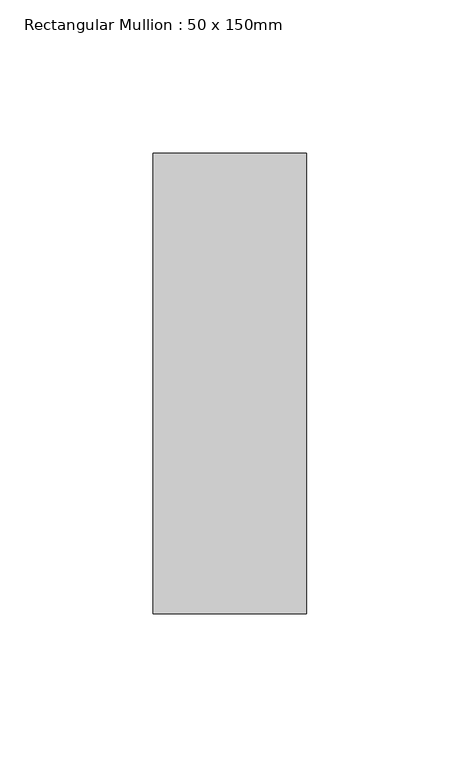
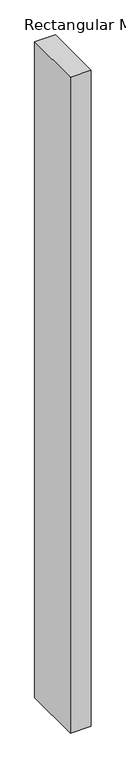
"""IFC4 building model written with IfcOpenShell, lengths in millimetres: member geometry, Rectangular Mullion : 50 x 150mm."""

import ifcopenshell
import ifcopenshell.guid

model = None  # the IFC model being written
_history = None  # IfcOwnerHistory: only IFC2X3 demands one
_inside = {}  # id of a spatial element -> (the spatial element, [elements in it])
_under = {}  # id of a project, library or spatial element -> (it, [spatial elements below it])
_declared = {}  # id of a project -> (the project, [libraries it declares])
_typed = {}  # id of a type object -> (the type object, [elements of that type])
_made_of = {}  # id of a material, layer set ... -> (it, [elements and type objects made of it])


def new_model(schema):
    """Start an empty IFC model of exactly this schema.

    Asked for "IFC4X3", IfcOpenShell would pick the latest addendum, in which some entities
    have other attributes; the version numbers below select the first issue.
    IFC2X3 requires an IfcOwnerHistory on every rooted entity: one is made here for all.
    """
    global model, _history
    if schema == "IFC4X3":
        model = ifcopenshell.file(schema_version=(4, 3, 0, 0))
    else:
        model = ifcopenshell.file(schema=schema)
    _inside.clear()
    _under.clear()
    _declared.clear()
    _typed.clear()
    _made_of.clear()
    _history = None
    if model.schema == "IFC2X3":
        org = make("IfcOrganization", Name="unknown")
        user = make(
            "IfcPersonAndOrganization",
            ThePerson=make("IfcPerson", FamilyName="unknown"),
            TheOrganization=org,
        )
        app = make(
            "IfcApplication",
            ApplicationDeveloper=org,
            Version="unknown",
            ApplicationFullName="unknown",
            ApplicationIdentifier="unknown",
        )
        _history = make(
            "IfcOwnerHistory",
            OwningUser=user,
            OwningApplication=app,
            ChangeAction="ADDED",
            CreationDate=0,
        )
    return model


def make(cls, **values):
    """One entity of the class cls with the attributes given. An attribute that is None is left unset."""
    return model.create_entity(
        cls, **{name: value for name, value in values.items() if value is not None}
    )


def rooted(cls, **values):
    """An entity with a GlobalId (a new one), such as an element, a storey or a relation."""
    return make(cls, GlobalId=ifcopenshell.guid.new(), OwnerHistory=_history, **values)


def si_unit(unit_type, name, prefix=None):
    """IfcSIUnit, for example si_unit("LENGTHUNIT", "METRE", prefix="MILLI")."""
    return make("IfcSIUnit", UnitType=unit_type, Prefix=prefix, Name=name)


def assignment(units):
    """IfcUnitAssignment: the units of a project."""
    return None if units is None else make("IfcUnitAssignment", Units=units)


def point(xyz):
    """IfcCartesianPoint."""
    return None if xyz is None else make("IfcCartesianPoint", Coordinates=xyz)


def direction(xyz):
    """IfcDirection."""
    return None if xyz is None else make("IfcDirection", DirectionRatios=xyz)


def frame(location, z_axis=None, x_axis=None):
    """IfcAxis2Placement3D, a coordinate frame: its origin and axes. An axis left out is left unset."""
    return make(
        "IfcAxis2Placement3D",
        Location=point(location),
        Axis=direction(z_axis),
        RefDirection=direction(x_axis),
    )


def origin():
    """The frame at (0, 0, 0) with its axes left unset."""
    return frame((0.0, 0.0, 0.0))


def place(relative_to, where):
    """IfcLocalPlacement: puts the frame where relative to a parent placement (None: the world)."""
    return make(
        "IfcLocalPlacement", PlacementRelTo=relative_to, RelativePlacement=where
    )


def context(
    kind, dimensions, precision=None, world=None, true_north=None, identifier=None
):
    """IfcGeometricRepresentationContext, for example the 3D "Model" context."""
    return make(
        "IfcGeometricRepresentationContext",
        ContextIdentifier=identifier,
        ContextType=kind,
        CoordinateSpaceDimension=dimensions,
        Precision=precision,
        WorldCoordinateSystem=world,
        TrueNorth=true_north,
    )


def project(units=None, contexts=None):
    """IfcProject with its units and contexts."""
    return rooted(
        "IfcProject",
        Name="project",
        RepresentationContexts=contexts,
        UnitsInContext=assignment(units),
    )


def spatial(cls, under=None, at=None, **own):
    """A site, building, storey or space (cls), placed at a placement, below another one or the project."""
    s = rooted(cls, ObjectPlacement=at, **own)
    if under is not None:
        _under.setdefault(under.id(), (under, []))[1].append(s)
    return s


def polyline(points):
    """IfcPolyline through the points."""
    return make("IfcPolyline", Points=[point(p) for p in points])


def outline(outer, holes=None, kind="AREA"):
    """IfcArbitraryClosedProfileDef: a profile drawn as a closed curve; with holes, ...WithVoids."""
    if holes is None:
        return make("IfcArbitraryClosedProfileDef", ProfileType=kind, OuterCurve=outer)
    return make(
        "IfcArbitraryProfileDefWithVoids",
        ProfileType=kind,
        OuterCurve=outer,
        InnerCurves=holes,
    )


def extrude(swept, where, along, depth):
    """IfcExtrudedAreaSolid: the profile swept, set in the frame where, extruded along a direction by depth."""
    return make(
        "IfcExtrudedAreaSolid",
        SweptArea=swept,
        Position=where,
        ExtrudedDirection=direction(along),
        Depth=depth,
    )


def shape(context_of_items, identifier, shape_type, items):
    """IfcShapeRepresentation: the items that make up one representation, for example the "Body"."""
    return make(
        "IfcShapeRepresentation",
        ContextOfItems=context_of_items,
        RepresentationIdentifier=identifier,
        RepresentationType=shape_type,
        Items=items,
    )


def source(mapping_origin, context_of_items, identifier, shape_type, items):
    """IfcRepresentationMap: a shape defined once, which mapped items show again and again."""
    return make(
        "IfcRepresentationMap",
        MappingOrigin=mapping_origin,
        MappedRepresentation=shape(context_of_items, identifier, shape_type, items),
    )


def transform(
    local_origin,
    x_axis=None,
    y_axis=None,
    z_axis=None,
    scale=None,
    scale2=None,
    scale3=None,
    uniform=True,
):
    """IfcCartesianTransformationOperator3D, or its non-uniform kind. x_axis, y_axis, z_axis: its Axis1, 2, 3."""
    if uniform:
        return make(
            "IfcCartesianTransformationOperator3D",
            Axis1=direction(x_axis),
            Axis2=direction(y_axis),
            LocalOrigin=point(local_origin),
            Scale=scale,
            Axis3=direction(z_axis),
        )
    return make(
        "IfcCartesianTransformationOperator3DnonUniform",
        Axis1=direction(x_axis),
        Axis2=direction(y_axis),
        LocalOrigin=point(local_origin),
        Scale=scale,
        Axis3=direction(z_axis),
        Scale2=scale2,
        Scale3=scale3,
    )


def mapped(mapping_source, mapping_target):
    """IfcMappedItem: shows the shape of a source again, moved by a transform."""
    return make(
        "IfcMappedItem", MappingSource=mapping_source, MappingTarget=mapping_target
    )


def made_of(thing, what):
    """Note that an element or type object is made of a material, layer set ...; save() writes the relation."""
    if what is not None:
        _made_of.setdefault(what.id(), (what, []))[1].append(thing)
    return thing


def element(
    cls,
    number,
    at=None,
    inside=None,
    cuts=None,
    type_object=None,
    material=None,
    context=None,
    identifier="Body",
    shape_type=None,
    held_by="IfcProductDefinitionShape",
    body=None,
    shapes=None,
    **own,
):
    """One element of the class cls, such as IfcWall. Its Tag is "e" and its number.

    at: its placement. inside: the storey or other place that contains it. cuts: it is an
    opening in that element (IfcRelVoidsElement). A single representation is given by context,
    identifier, shape_type and body (its items); several are given by shapes. held_by: the class
    of the entity that holds the representations. save() writes the other relations.
    """
    e = rooted(cls, Tag="e%d" % number, ObjectPlacement=at, **own)
    if body is not None:
        shapes = [shape(context, identifier, shape_type, body)]
    if shapes is not None:
        e.Representation = make(held_by, Representations=shapes)
    if inside is not None:
        _inside.setdefault(inside.id(), (inside, []))[1].append(e)
    if cuts is not None:
        rooted(
            "IfcRelVoidsElement", RelatingBuildingElement=cuts, RelatedOpeningElement=e
        )
    if type_object is not None:
        _typed.setdefault(type_object.id(), (type_object, []))[1].append(e)
    return made_of(e, material)


def aggregate(whole, parts):
    """IfcRelAggregates: a whole, such as a stair, and the parts it consists of."""
    return rooted("IfcRelAggregates", RelatingObject=whole, RelatedObjects=parts)


def save(model, path):
    """Write the relations noted so far, then the file.

    IfcRelAggregates (storeys below a building ...), IfcRelContainedInSpatialStructure (elements
    in a storey), IfcRelDefinesByType, IfcRelAssociatesMaterial and IfcRelDeclares: one each for
    every whole, place, type object, material and project.
    """
    for whole, parts in _under.values():
        aggregate(whole, parts)
    for where, things in _inside.values():
        rooted(
            "IfcRelContainedInSpatialStructure",
            RelatedElements=things,
            RelatingStructure=where,
        )
    for kind, things in _typed.values():
        rooted("IfcRelDefinesByType", RelatedObjects=things, RelatingType=kind)
    for what, things in _made_of.values():
        rooted("IfcRelAssociatesMaterial", RelatedObjects=things, RelatingMaterial=what)
    for by, libraries in _declared.values():
        rooted("IfcRelDeclares", RelatingContext=by, RelatedDefinitions=libraries)
    model.write(path)


def rectangular_mullion_50_x_150mm_d689bbf2(model_context):
    return source(origin(), model_context, "Body", "SweptSolid", [
        extrude(outline(polyline([(25.0, 75.0), (25.0, -75.0), (-25.0, -75.0), (-25.0, 75.0), (25.0, 75.0)])), frame((0.0, 0.0, -1677.2), z_axis=(0.0, 0.0, 1.0), x_axis=(1.0, 0.0, 0.0)), (0.0, 0.0, 1.0), 1677.2),
    ])


if __name__ == "__main__":
    model = new_model("IFC4")
    model_context = context("Model", 3, world=origin())
    ifc_project = project(units=[si_unit("LENGTHUNIT", "METRE", prefix="MILLI")], contexts=[model_context])
    site = spatial("IfcSite", under=ifc_project)
    building = spatial("IfcBuilding", under=site)
    placement = place(None, origin())
    rectangular_mullion_50_x_150mm_shape = rectangular_mullion_50_x_150mm_d689bbf2(model_context)
    element("IfcMember", 1, ObjectType="Rectangular Mullion : 50 x 150mm", at=placement, inside=building, context=model_context, shape_type="MappedRepresentation", body=[
        mapped(rectangular_mullion_50_x_150mm_shape, transform((0.0, 0.0, 0.0), x_axis=(1.0, 0.0, 0.0), y_axis=(0.0, 1.0, 0.0), z_axis=(0.0, 0.0, 1.0))),
    ])
    save(model, "model.ifc")
